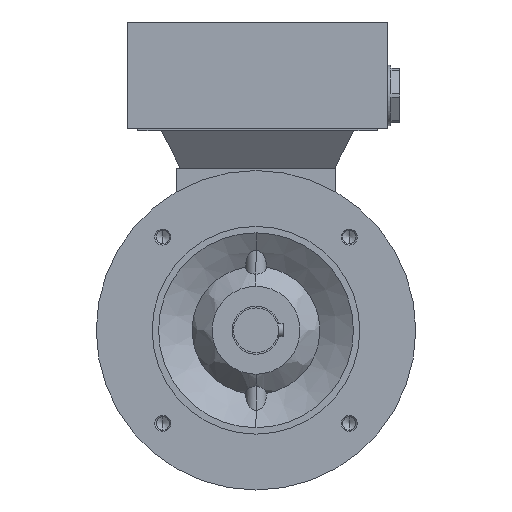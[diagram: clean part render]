
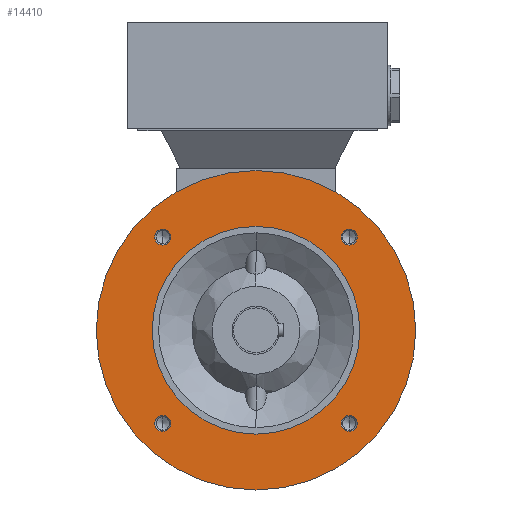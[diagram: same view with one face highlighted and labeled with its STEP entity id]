
A CAD part, left-side view. The second image highlights one B-rep face of the part: STEP entity #14410.
In plain terms, the highlighted planar face has unit normal (-1, 0, 0).
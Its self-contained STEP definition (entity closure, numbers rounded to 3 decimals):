
#5049 = EDGE_CURVE ( 'NONE', #17534, #17535, #12145, .T. ) ;
#5050 = EDGE_CURVE ( 'NONE', #17539, #17540, #12146, .T. ) ;
#5051 = EDGE_CURVE ( 'NONE', #17545, #17546, #12147, .T. ) ;
#5052 = EDGE_CURVE ( 'NONE', #17481, #17482, #12148, .T. ) ;
#5053 = EDGE_CURVE ( 'NONE', #17488, #17489, #12149, .T. ) ;
#5055 = EDGE_CURVE ( 'NONE', #17491, #17492, #12151, .T. ) ;
#7355 = PLANE ( 'NONE',  #7881 ) ;
#7356 = DIRECTION ( 'NONE',  ( -1., 0., 0. ) ) ;
#7361 = CARTESIAN_POINT ( 'NONE',  ( -40.5, 0., 82.5 ) ) ;
#7362 = DIRECTION ( 'NONE',  ( 0., 0., 1. ) ) ;
#7601 = AXIS2_PLACEMENT_3D ( 'NONE', #8413, #8414, #8415 ) ;
#7602 = AXIS2_PLACEMENT_3D ( 'NONE', #8416, #8417, #8418 ) ;
#7603 = AXIS2_PLACEMENT_3D ( 'NONE', #8419, #8420, #8421 ) ;
#7604 = AXIS2_PLACEMENT_3D ( 'NONE', #8422, #8423, #8424 ) ;
#7605 = AXIS2_PLACEMENT_3D ( 'NONE', #8425, #8426, #8427 ) ;
#7607 = AXIS2_PLACEMENT_3D ( 'NONE', #8432, #8433, #8434 ) ;
#7812 = AXIS2_PLACEMENT_3D ( 'NONE', #23335, #23336, #23337 ) ;
#7814 = AXIS2_PLACEMENT_3D ( 'NONE', #23345, #23346, #23347 ) ;
#7816 = AXIS2_PLACEMENT_3D ( 'NONE', #23355, #23356, #23357 ) ;
#7818 = AXIS2_PLACEMENT_3D ( 'NONE', #23365, #23366, #23367 ) ;
#7821 = AXIS2_PLACEMENT_3D ( 'NONE', #23381, #23382, #23383 ) ;
#7824 = AXIS2_PLACEMENT_3D ( 'NONE', #23395, #23396, #23397 ) ;
#7881 = AXIS2_PLACEMENT_3D ( 'NONE', #7361, #7356, #7362 ) ;
#8413 = CARTESIAN_POINT ( 'NONE',  ( -40.5, -58.336, -58.336 ) ) ;
#8414 = DIRECTION ( 'NONE',  ( 1., 0., 0. ) ) ;
#8415 = DIRECTION ( 'NONE',  ( 0., 0., 1. ) ) ;
#8416 = CARTESIAN_POINT ( 'NONE',  ( -40.5, 58.336, -58.336 ) ) ;
#8417 = DIRECTION ( 'NONE',  ( 1., 0., 0. ) ) ;
#8418 = DIRECTION ( 'NONE',  ( 0., 0., 1. ) ) ;
#8419 = CARTESIAN_POINT ( 'NONE',  ( -40.5, 58.336, 58.336 ) ) ;
#8420 = DIRECTION ( 'NONE',  ( 1., 0., 0. ) ) ;
#8421 = DIRECTION ( 'NONE',  ( 0., 0., 1. ) ) ;
#8422 = CARTESIAN_POINT ( 'NONE',  ( -40.5, -58.336, 58.336 ) ) ;
#8423 = DIRECTION ( 'NONE',  ( 1., 0., 0. ) ) ;
#8424 = DIRECTION ( 'NONE',  ( 0., 0., 1. ) ) ;
#8425 = CARTESIAN_POINT ( 'NONE',  ( -40.5, 0., 0. ) ) ;
#8426 = DIRECTION ( 'NONE',  ( 1., 0., 0. ) ) ;
#8427 = DIRECTION ( 'NONE',  ( 0., 0., 1. ) ) ;
#8432 = CARTESIAN_POINT ( 'NONE',  ( -40.5, 0., 0. ) ) ;
#8433 = DIRECTION ( 'NONE',  ( 1., 0., 0. ) ) ;
#8434 = DIRECTION ( 'NONE',  ( 0., 0., 1. ) ) ;
#11355 = CIRCLE ( 'NONE', #7812, 5. ) ;
#11360 = CIRCLE ( 'NONE', #7814, 5. ) ;
#11366 = CIRCLE ( 'NONE', #7816, 5. ) ;
#11372 = CIRCLE ( 'NONE', #7818, 5. ) ;
#11384 = CIRCLE ( 'NONE', #7821, 65. ) ;
#11393 = CIRCLE ( 'NONE', #7824, 100. ) ;
#12145 = CIRCLE ( 'NONE', #7601, 5. ) ;
#12146 = CIRCLE ( 'NONE', #7602, 5. ) ;
#12147 = CIRCLE ( 'NONE', #7603, 5. ) ;
#12148 = CIRCLE ( 'NONE', #7604, 5. ) ;
#12149 = CIRCLE ( 'NONE', #7605, 65. ) ;
#12151 = CIRCLE ( 'NONE', #7607, 100. ) ;
#12711 = EDGE_CURVE ( 'NONE', #17535, #17534, #11355, .T. ) ;
#12715 = EDGE_CURVE ( 'NONE', #17540, #17539, #11360, .T. ) ;
#12719 = EDGE_CURVE ( 'NONE', #17546, #17545, #11366, .T. ) ;
#12723 = EDGE_CURVE ( 'NONE', #17482, #17481, #11372, .T. ) ;
#12729 = EDGE_CURVE ( 'NONE', #17489, #17488, #11384, .T. ) ;
#12735 = EDGE_CURVE ( 'NONE', #17492, #17491, #11393, .T. ) ;
#14410 = ADVANCED_FACE ( 'NONE', ( #15845, #15849, #15782, #15848, #15823, #15851 ), #7355, .T. ) ;
#15383 = CARTESIAN_POINT ( 'NONE',  ( -40.5, -58.336, 53.336 ) ) ;
#15384 = CARTESIAN_POINT ( 'NONE',  ( -40.5, -58.336, 63.336 ) ) ;
#15390 = CARTESIAN_POINT ( 'NONE',  ( -40.5, 0., 65. ) ) ;
#15391 = CARTESIAN_POINT ( 'NONE',  ( -40.5, 0., -65. ) ) ;
#15393 = CARTESIAN_POINT ( 'NONE',  ( -40.5, 0., 100. ) ) ;
#15394 = CARTESIAN_POINT ( 'NONE',  ( -40.5, 0., -100. ) ) ;
#15436 = CARTESIAN_POINT ( 'NONE',  ( -40.5, -58.336, -63.336 ) ) ;
#15437 = CARTESIAN_POINT ( 'NONE',  ( -40.5, -58.336, -53.336 ) ) ;
#15441 = CARTESIAN_POINT ( 'NONE',  ( -40.5, 58.336, -63.336 ) ) ;
#15442 = CARTESIAN_POINT ( 'NONE',  ( -40.5, 58.336, -53.336 ) ) ;
#15447 = CARTESIAN_POINT ( 'NONE',  ( -40.5, 58.336, 53.336 ) ) ;
#15448 = CARTESIAN_POINT ( 'NONE',  ( -40.5, 58.336, 63.336 ) ) ;
#15782 = FACE_BOUND ( 'NONE', #24450, .T. ) ;
#15823 = FACE_BOUND ( 'NONE', #24445, .T. ) ;
#15845 = FACE_BOUND ( 'NONE', #24451, .T. ) ;
#15848 = FACE_BOUND ( 'NONE', #24452, .T. ) ;
#15849 = FACE_OUTER_BOUND ( 'NONE', #24444, .T. ) ;
#15851 = FACE_BOUND ( 'NONE', #24443, .T. ) ;
#17481 = VERTEX_POINT ( 'NONE', #15383 ) ;
#17482 = VERTEX_POINT ( 'NONE', #15384 ) ;
#17488 = VERTEX_POINT ( 'NONE', #15390 ) ;
#17489 = VERTEX_POINT ( 'NONE', #15391 ) ;
#17491 = VERTEX_POINT ( 'NONE', #15393 ) ;
#17492 = VERTEX_POINT ( 'NONE', #15394 ) ;
#17534 = VERTEX_POINT ( 'NONE', #15436 ) ;
#17535 = VERTEX_POINT ( 'NONE', #15437 ) ;
#17539 = VERTEX_POINT ( 'NONE', #15441 ) ;
#17540 = VERTEX_POINT ( 'NONE', #15442 ) ;
#17545 = VERTEX_POINT ( 'NONE', #15447 ) ;
#17546 = VERTEX_POINT ( 'NONE', #15448 ) ;
#17696 = ORIENTED_EDGE ( 'NONE', *, *, #5049, .T. ) ;
#17697 = ORIENTED_EDGE ( 'NONE', *, *, #12711, .T. ) ;
#17698 = ORIENTED_EDGE ( 'NONE', *, *, #5050, .T. ) ;
#17699 = ORIENTED_EDGE ( 'NONE', *, *, #12715, .T. ) ;
#17700 = ORIENTED_EDGE ( 'NONE', *, *, #5051, .T. ) ;
#17701 = ORIENTED_EDGE ( 'NONE', *, *, #12719, .T. ) ;
#17702 = ORIENTED_EDGE ( 'NONE', *, *, #5052, .T. ) ;
#17703 = ORIENTED_EDGE ( 'NONE', *, *, #12723, .T. ) ;
#17704 = ORIENTED_EDGE ( 'NONE', *, *, #12735, .F. ) ;
#17705 = ORIENTED_EDGE ( 'NONE', *, *, #5055, .F. ) ;
#17706 = ORIENTED_EDGE ( 'NONE', *, *, #12729, .T. ) ;
#17707 = ORIENTED_EDGE ( 'NONE', *, *, #5053, .T. ) ;
#23335 = CARTESIAN_POINT ( 'NONE',  ( -40.5, -58.336, -58.336 ) ) ;
#23336 = DIRECTION ( 'NONE',  ( 1., 0., 0. ) ) ;
#23337 = DIRECTION ( 'NONE',  ( 0., 0., 1. ) ) ;
#23345 = CARTESIAN_POINT ( 'NONE',  ( -40.5, 58.336, -58.336 ) ) ;
#23346 = DIRECTION ( 'NONE',  ( 1., 0., 0. ) ) ;
#23347 = DIRECTION ( 'NONE',  ( 0., 0., 1. ) ) ;
#23355 = CARTESIAN_POINT ( 'NONE',  ( -40.5, 58.336, 58.336 ) ) ;
#23356 = DIRECTION ( 'NONE',  ( 1., 0., 0. ) ) ;
#23357 = DIRECTION ( 'NONE',  ( 0., 0., 1. ) ) ;
#23365 = CARTESIAN_POINT ( 'NONE',  ( -40.5, -58.336, 58.336 ) ) ;
#23366 = DIRECTION ( 'NONE',  ( 1., 0., 0. ) ) ;
#23367 = DIRECTION ( 'NONE',  ( 0., 0., 1. ) ) ;
#23381 = CARTESIAN_POINT ( 'NONE',  ( -40.5, 0., 0. ) ) ;
#23382 = DIRECTION ( 'NONE',  ( 1., 0., 0. ) ) ;
#23383 = DIRECTION ( 'NONE',  ( 0., 0., 1. ) ) ;
#23395 = CARTESIAN_POINT ( 'NONE',  ( -40.5, 0., 0. ) ) ;
#23396 = DIRECTION ( 'NONE',  ( 1., 0., 0. ) ) ;
#23397 = DIRECTION ( 'NONE',  ( 0., 0., 1. ) ) ;
#24443 = EDGE_LOOP ( 'NONE', ( #17697, #17696 ) ) ;
#24444 = EDGE_LOOP ( 'NONE', ( #17705, #17704 ) ) ;
#24445 = EDGE_LOOP ( 'NONE', ( #17699, #17698 ) ) ;
#24450 = EDGE_LOOP ( 'NONE', ( #17703, #17702 ) ) ;
#24451 = EDGE_LOOP ( 'NONE', ( #17707, #17706 ) ) ;
#24452 = EDGE_LOOP ( 'NONE', ( #17701, #17700 ) ) ;
